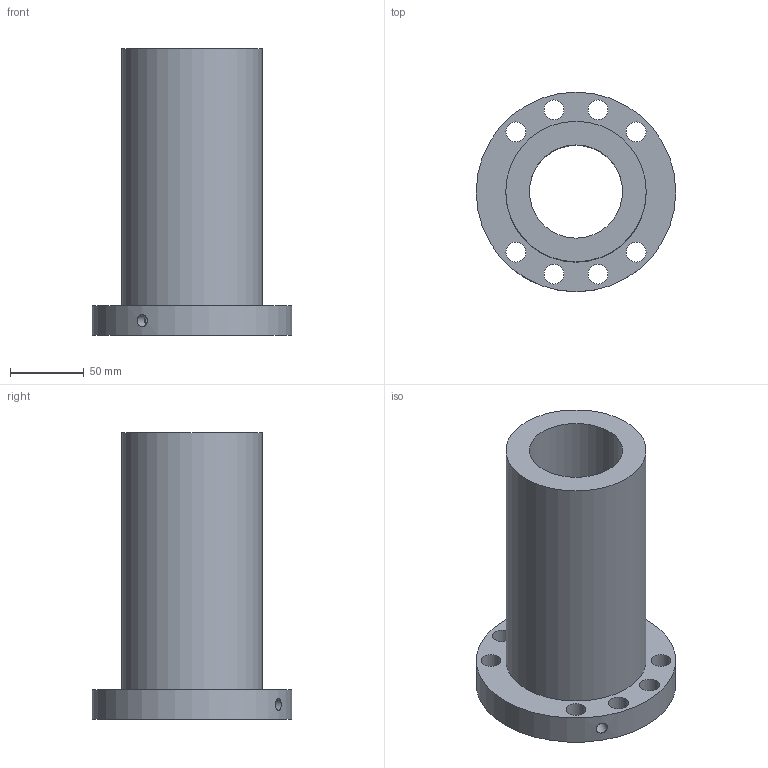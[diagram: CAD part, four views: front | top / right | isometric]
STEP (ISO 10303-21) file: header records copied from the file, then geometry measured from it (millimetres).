
FILE_DESCRIPTION(/* description */ (''),/* implementation_level */ '2;1');
FILE_NAME(/* name */ '63-12K5_635',/* time_stamp */ '2007-10-15T12:53:53+08:00',/* author */ (''),/* organization */ (''),/* preprocessor_version */ 'ST-DEVELOPER v11',/* originating_system */ 'UGS - NX 5.0',/* authorisation */ '');
FILE_SCHEMA (('CONFIG_CONTROL_DESIGN'));
Length unit declared in the file: millimetre
Products named in the file (1): 63-12K5_635
Bounding box: 135 x 135 x 194 mm (x, y, z)
Volume: 890743.3 mm3; surface area: 126383 mm2
Topology: 1 solids, 1 shells, 17 faces, 40 edges, 27 vertices
Faces by surface type: cylinder 13, plane 4
Full cylindrical faces by diameter (mm): 6 x1, 8 x1, 13.5 x8, 63 x1, 95 x1, 135 x1
Entity records: 668 total; most frequent: CARTESIAN_POINT 184, DIRECTION 84, FACE_BOUND 52, EDGE_LOOP 52, ORIENTED_EDGE 52, AXIS2_PLACEMENT_3D 42, VERTEX_POINT 26, EDGE_CURVE 26
